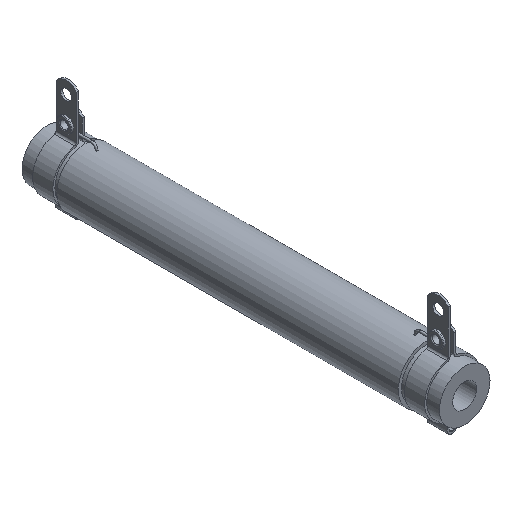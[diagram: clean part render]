
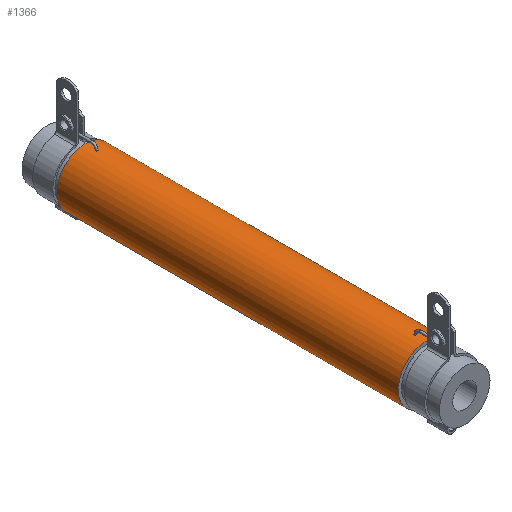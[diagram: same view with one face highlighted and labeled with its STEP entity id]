
A CAD part, isometric view. The second image highlights one B-rep face of the part: STEP entity #1366.
In plain terms, the highlighted cylindrical face has radius 11.25 mm (diameter 22.5 mm), a full revolution.
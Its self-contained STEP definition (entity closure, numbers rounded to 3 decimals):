
#147=B_SPLINE_CURVE_WITH_KNOTS($,3,(#2087,#2088,#2089,#2090,#2091,#2092,
#2093,#2094,#2095,#2096,#2097,#2098,#2099,#2100,#2101,#2102,#2103,#2104,
#2105,#2106,#2107,#2108,#2109,#2110,#2111,#2112,#2113,#2114,#2115,#2116,
#2117,#2118,#2119,#2120,#2121,#2122),.UNSPECIFIED.,.T.,.F.,(4,2,2,2,2,2,
2,2,2,2,2,2,2,2,2,2,2,4),(0.,0.016,0.031,0.047,
0.062,0.078,0.094,0.109,
0.125,0.141,0.156,0.172,
0.188,0.203,0.219,0.234,
0.243,0.252),.UNSPECIFIED.);
#148=B_SPLINE_CURVE_WITH_KNOTS($,3,(#2124,#2125,#2126,#2127,#2128,#2129,
#2130,#2131,#2132,#2133,#2134,#2135,#2136,#2137,#2138,#2139,#2140,#2141,
#2142,#2143,#2144,#2145,#2146,#2147,#2148,#2149,#2150,#2151,#2152,#2153,
#2154,#2155,#2156,#2157,#2158,#2159),.UNSPECIFIED.,.T.,.F.,(4,2,2,2,2,2,
2,2,2,2,2,2,2,2,2,2,2,4),(0.,0.016,0.031,0.047,
0.062,0.078,0.094,0.109,
0.125,0.141,0.156,0.172,
0.188,0.203,0.219,0.234,
0.243,0.252),.UNSPECIFIED.);
#177=FACE_BOUND($,#372,.T.);
#178=FACE_BOUND($,#373,.T.);
#179=FACE_BOUND($,#374,.T.);
#180=FACE_BOUND($,#375,.T.);
#251=CYLINDRICAL_SURFACE($,#1468,11.25);
#372=EDGE_LOOP($,(#918));
#373=EDGE_LOOP($,(#919));
#374=EDGE_LOOP($,(#920));
#375=EDGE_LOOP($,(#921));
#511=CIRCLE($,#1469,11.25);
#512=CIRCLE($,#1470,11.25);
#604=VERTEX_POINT($,#2086);
#605=VERTEX_POINT($,#2123);
#606=VERTEX_POINT($,#2160);
#607=VERTEX_POINT($,#2162);
#736=EDGE_CURVE($,#604,#604,#147,.T.);
#737=EDGE_CURVE($,#605,#605,#148,.T.);
#738=EDGE_CURVE($,#606,#606,#511,.T.);
#739=EDGE_CURVE($,#607,#607,#512,.T.);
#918=ORIENTED_EDGE($,*,*,#736,.T.);
#919=ORIENTED_EDGE($,*,*,#737,.T.);
#920=ORIENTED_EDGE($,*,*,#738,.T.);
#921=ORIENTED_EDGE($,*,*,#739,.F.);
#1366=ADVANCED_FACE($,(#177,#178,#179,#180),#251,.T.);
#1468=AXIS2_PLACEMENT_3D($,#2085,#1662,#1663);
#1469=AXIS2_PLACEMENT_3D($,#2161,#1664,#1665);
#1470=AXIS2_PLACEMENT_3D($,#2163,#1666,#1667);
#1662=DIRECTION('center_axis',(0.,1.,0.));
#1663=DIRECTION('ref_axis',(0.757,0.,0.653));
#1664=DIRECTION('center_axis',(0.,-1.,0.));
#1665=DIRECTION('ref_axis',(0.757,0.,0.653));
#1666=DIRECTION('center_axis',(0.,-1.,0.));
#1667=DIRECTION('ref_axis',(0.757,0.,0.653));
#2085=CARTESIAN_POINT('Origin',(21.645,61.577,19.693));
#2086=CARTESIAN_POINT('',(21.645,66.477,30.943));
#2087=CARTESIAN_POINT('Ctrl Pts',(21.645,66.477,30.943));
#2088=CARTESIAN_POINT('Ctrl Pts',(21.697,66.477,30.943));
#2089=CARTESIAN_POINT('Ctrl Pts',(21.749,66.467,30.942));
#2090=CARTESIAN_POINT('Ctrl Pts',(21.845,66.427,30.941));
#2091=CARTESIAN_POINT('Ctrl Pts',(21.889,66.398,30.94));
#2092=CARTESIAN_POINT('Ctrl Pts',(21.963,66.325,30.938));
#2093=CARTESIAN_POINT('Ctrl Pts',(21.993,66.281,30.937));
#2094=CARTESIAN_POINT('Ctrl Pts',(22.034,66.186,30.936));
#2095=CARTESIAN_POINT('Ctrl Pts',(22.045,66.134,30.936));
#2096=CARTESIAN_POINT('Ctrl Pts',(22.046,66.03,30.936));
#2097=CARTESIAN_POINT('Ctrl Pts',(22.036,65.978,30.936));
#2098=CARTESIAN_POINT('Ctrl Pts',(21.998,65.881,30.937));
#2099=CARTESIAN_POINT('Ctrl Pts',(21.97,65.837,30.938));
#2100=CARTESIAN_POINT('Ctrl Pts',(21.898,65.762,30.94));
#2101=CARTESIAN_POINT('Ctrl Pts',(21.854,65.732,30.941));
#2102=CARTESIAN_POINT('Ctrl Pts',(21.759,65.689,30.942));
#2103=CARTESIAN_POINT('Ctrl Pts',(21.708,65.678,30.943));
#2104=CARTESIAN_POINT('Ctrl Pts',(21.604,65.675,30.943));
#2105=CARTESIAN_POINT('Ctrl Pts',(21.552,65.684,30.942));
#2106=CARTESIAN_POINT('Ctrl Pts',(21.455,65.721,30.941));
#2107=CARTESIAN_POINT('Ctrl Pts',(21.41,65.749,30.94));
#2108=CARTESIAN_POINT('Ctrl Pts',(21.334,65.82,30.938));
#2109=CARTESIAN_POINT('Ctrl Pts',(21.303,65.862,30.938));
#2110=CARTESIAN_POINT('Ctrl Pts',(21.26,65.957,30.936));
#2111=CARTESIAN_POINT('Ctrl Pts',(21.248,66.008,30.936));
#2112=CARTESIAN_POINT('Ctrl Pts',(21.243,66.113,30.936));
#2113=CARTESIAN_POINT('Ctrl Pts',(21.252,66.165,30.936));
#2114=CARTESIAN_POINT('Ctrl Pts',(21.287,66.262,30.937));
#2115=CARTESIAN_POINT('Ctrl Pts',(21.314,66.307,30.938));
#2116=CARTESIAN_POINT('Ctrl Pts',(21.384,66.384,30.94));
#2117=CARTESIAN_POINT('Ctrl Pts',(21.427,66.416,30.941));
#2118=CARTESIAN_POINT('Ctrl Pts',(21.5,66.451,30.942));
#2119=CARTESIAN_POINT('Ctrl Pts',(21.528,66.46,30.942));
#2120=CARTESIAN_POINT('Ctrl Pts',(21.586,66.473,30.943));
#2121=CARTESIAN_POINT('Ctrl Pts',(21.616,66.477,30.943));
#2122=CARTESIAN_POINT('Ctrl Pts',(21.645,66.477,30.943));
#2123=CARTESIAN_POINT('',(21.645,191.678,30.943));
#2124=CARTESIAN_POINT('Ctrl Pts',(21.645,191.678,30.943));
#2125=CARTESIAN_POINT('Ctrl Pts',(21.593,191.678,30.943));
#2126=CARTESIAN_POINT('Ctrl Pts',(21.542,191.688,30.942));
#2127=CARTESIAN_POINT('Ctrl Pts',(21.445,191.727,30.941));
#2128=CARTESIAN_POINT('Ctrl Pts',(21.401,191.756,30.94));
#2129=CARTESIAN_POINT('Ctrl Pts',(21.327,191.83,30.938));
#2130=CARTESIAN_POINT('Ctrl Pts',(21.298,191.873,30.937));
#2131=CARTESIAN_POINT('Ctrl Pts',(21.257,191.969,30.936));
#2132=CARTESIAN_POINT('Ctrl Pts',(21.246,192.02,30.936));
#2133=CARTESIAN_POINT('Ctrl Pts',(21.245,192.124,30.936));
#2134=CARTESIAN_POINT('Ctrl Pts',(21.254,192.176,30.936));
#2135=CARTESIAN_POINT('Ctrl Pts',(21.292,192.273,30.937));
#2136=CARTESIAN_POINT('Ctrl Pts',(21.321,192.317,30.938));
#2137=CARTESIAN_POINT('Ctrl Pts',(21.393,192.393,30.94));
#2138=CARTESIAN_POINT('Ctrl Pts',(21.436,192.423,30.941));
#2139=CARTESIAN_POINT('Ctrl Pts',(21.531,192.465,30.942));
#2140=CARTESIAN_POINT('Ctrl Pts',(21.583,192.476,30.943));
#2141=CARTESIAN_POINT('Ctrl Pts',(21.687,192.479,30.943));
#2142=CARTESIAN_POINT('Ctrl Pts',(21.738,192.47,30.942));
#2143=CARTESIAN_POINT('Ctrl Pts',(21.836,192.434,30.941));
#2144=CARTESIAN_POINT('Ctrl Pts',(21.88,192.406,30.94));
#2145=CARTESIAN_POINT('Ctrl Pts',(21.956,192.335,30.938));
#2146=CARTESIAN_POINT('Ctrl Pts',(21.987,192.292,30.938));
#2147=CARTESIAN_POINT('Ctrl Pts',(22.031,192.197,30.936));
#2148=CARTESIAN_POINT('Ctrl Pts',(22.043,192.146,30.936));
#2149=CARTESIAN_POINT('Ctrl Pts',(22.047,192.042,30.936));
#2150=CARTESIAN_POINT('Ctrl Pts',(22.039,191.99,30.936));
#2151=CARTESIAN_POINT('Ctrl Pts',(22.003,191.892,30.937));
#2152=CARTESIAN_POINT('Ctrl Pts',(21.976,191.847,30.938));
#2153=CARTESIAN_POINT('Ctrl Pts',(21.906,191.77,30.94));
#2154=CARTESIAN_POINT('Ctrl Pts',(21.864,191.739,30.941));
#2155=CARTESIAN_POINT('Ctrl Pts',(21.79,191.704,30.942));
#2156=CARTESIAN_POINT('Ctrl Pts',(21.762,191.694,30.942));
#2157=CARTESIAN_POINT('Ctrl Pts',(21.704,191.681,30.943));
#2158=CARTESIAN_POINT('Ctrl Pts',(21.675,191.678,30.943));
#2159=CARTESIAN_POINT('Ctrl Pts',(21.645,191.678,30.943));
#2160=CARTESIAN_POINT('',(13.129,196.577,12.341));
#2161=CARTESIAN_POINT('Origin',(21.645,196.577,19.693));
#2162=CARTESIAN_POINT('',(13.129,61.577,12.341));
#2163=CARTESIAN_POINT('Origin',(21.645,61.577,19.693));
